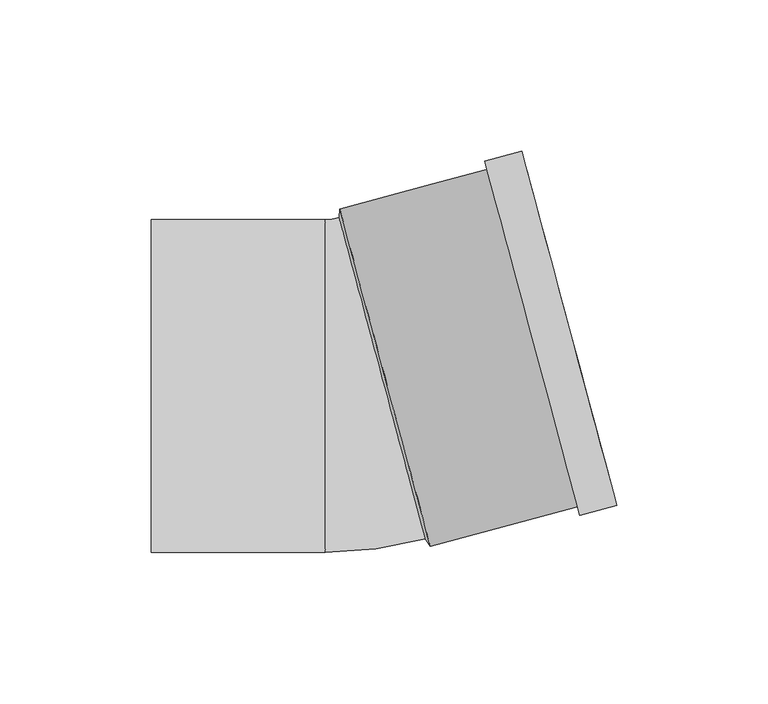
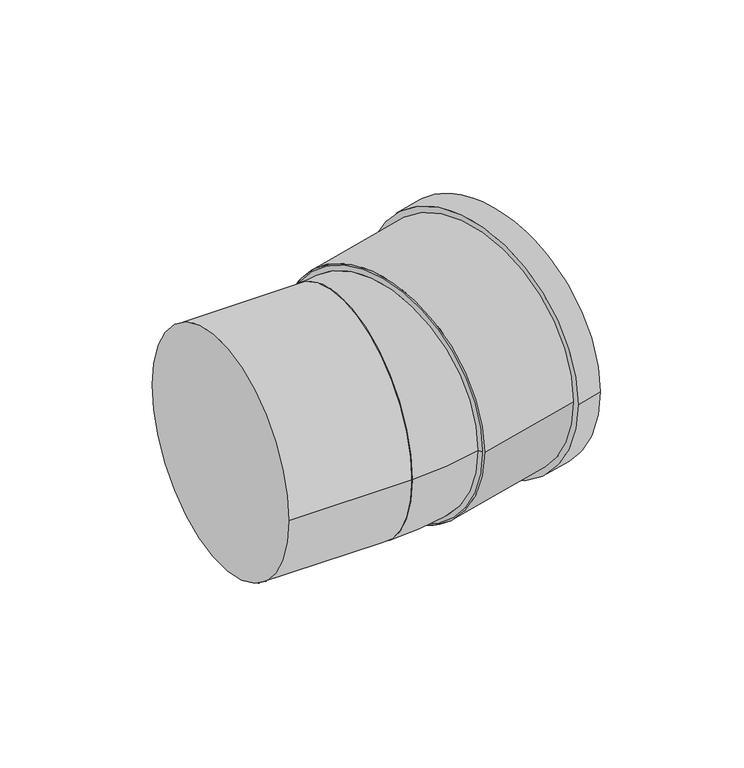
"""IFC4 building model written with IfcOpenShell, lengths in millimetres: pipe fitting geometry, Superdrain HT bend : Superdrain HT Bend."""

from ifc_helpers import new_model, si_unit, point, frame, origin, origin_2d, place, context, project, spatial, polyline, circle_curve, ellipse_curve, trimmed, segment, composite_curve, outline, extrude, source, transform, mapped, element, save
from ifc_brep_helpers import plane_surface, revolved_surface, advanced_brep


def pipe_fitting_7f627d22(model_context):
    return source(origin(), model_context, "Body", "SolidModel", [
        advanced_brep(
        [(23.5079354, -50.6412576, 0.0), (-4.9621595, 55.6105833, 0.0), (-9.6, -55.0, 0.0), (-9.6, 55.0, 0.0)],
        [
            (0, 1, circle_curve(frame((9.2728879, 2.4846628, 0.0), z_axis=(0.965925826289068, 0.258819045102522, 0.0), x_axis=(-0.258819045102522, 0.965925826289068, 0.0)), 55.0)),
            (1, 0, circle_curve(frame((9.2728879, 2.4846628, 0.0), z_axis=(0.9659258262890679, 0.25881904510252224, 0.0), x_axis=(-0.25881904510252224, 0.9659258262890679, 0.0)), 55.0)),
            (2, 3, circle_curve(frame((-9.6, 0.0, 0.0), z_axis=(-1.0, 0.0, 0.0), x_axis=(0.0, 1.0, 0.0)), 55.0)),
            (3, 2, circle_curve(frame((-9.6, 0.0, 0.0), z_axis=(-1.0, 0.0, 0.0), x_axis=(0.0, 1.0, 0.0)), 55.0)),
            (3, 1, circle_curve(frame((-9.6, 72.9192395, 0.0), z_axis=(0.0, 0.0, 1.0), x_axis=(1.0, 0.0, 0.0)), 17.9192395)),
            (0, 2, circle_curve(frame((-9.6, 72.9192395, 0.0), z_axis=(0.0, 0.0, -1.0), x_axis=(1.0, 0.0, 0.0)), 127.9192395)),
        ],
        [
            plane_surface(frame((9.2728879, 2.4846628, 0.0), z_axis=(0.965925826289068, 0.258819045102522, 0.0), x_axis=(0.0, 0.0, -1.0))),
            plane_surface(frame((-9.6, 0.0, 0.0), z_axis=(-1.0, 0.0, 0.0), x_axis=(0.0, 0.0, -1.0))),
            revolved_surface(trimmed(ellipse_curve(frame((63.3192395, 72.9192395, 0.0), z_axis=(0.0, -1.0, 0.0), x_axis=(-1.0, 0.0, 0.0)), 55.0, 55.0), [point((8.3192395, 72.9192395, 0.0))], [point((118.3192395, 72.9192395, 0.0))], True, "CARTESIAN"), (-9.6, 72.9192395, 0.0), (0.0, 0.0, 1.0)),
            revolved_surface(trimmed(ellipse_curve(frame((63.3192395, 72.9192395, 0.0), z_axis=(0.0, -1.0, 0.0), x_axis=(-1.0, 0.0, 0.0)), 55.0, 55.0), [point((118.3192395, 72.9192395, 0.0))], [point((8.3192395, 72.9192395, 0.0))], True, "CARTESIAN"), (-9.6, 72.9192395, 0.0), (0.0, 0.0, 1.0)),
        ],
        [
            (0, [[1, 2]]),
            (1, [[3, 4]]),
            (2, [[-4, 5, -1, 6]]),
            (3, [[-3, -6, -2, -5]]),
        ],
    ),
        extrude(outline(composite_curve([segment(trimmed(circle_curve(origin_2d(), 57.75), [point((0.0, 57.75))], [point((0.0, -57.7499999))], False, "CARTESIAN"), True, "CONTINUOUS"), segment(trimmed(circle_curve(origin_2d(), 57.75), [point((0.0, -57.7499999))], [point((0.0, 57.75))], False, "CARTESIAN"), True, "CONTINUOUS")], self_intersect=False), holes=[composite_curve([segment(trimmed(circle_curve(origin_2d(), 55.0), [point((0.0, 55.0))], [point((0.0, -55.0))], True, "CARTESIAN"), True, "CONTINUOUS"), segment(trimmed(circle_curve(origin_2d(), 55.0), [point((0.0, -55.0))], [point((0.0, 55.0))], True, "CARTESIAN"), True, "CONTINUOUS")], self_intersect=False)]), frame((10.2388138, 2.7434819, 0.0), z_axis=(0.9659258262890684, 0.2588190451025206, 0.0), x_axis=(0.0, 0.0, 1.0)), (0.0, 0.0, 1.0), 63.0),
        extrude(outline(composite_curve([segment(trimmed(circle_curve(origin_2d(), 60.6375), [point((0.0, -60.6374999))], [point((0.0, 60.6375))], False, "CARTESIAN"), True, "CONTINUOUS"), segment(trimmed(circle_curve(origin_2d(), 60.6375), [point((0.0, 60.6375))], [point((0.0, -60.6374999))], False, "CARTESIAN"), True, "CONTINUOUS")], self_intersect=False), holes=[composite_curve([segment(trimmed(circle_curve(origin_2d(), 55.0), [point((0.0, -55.0))], [point((0.0, 55.0000001))], True, "CARTESIAN"), True, "CONTINUOUS"), segment(trimmed(circle_curve(origin_2d(), 55.0), [point((0.0, 55.0000001))], [point((0.0, -55.0))], True, "CARTESIAN"), True, "CONTINUOUS")], self_intersect=False)]), frame((58.9214754, 15.7879618, 0.0), z_axis=(0.9659258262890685, 0.25881904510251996, 0.0), x_axis=(0.0, 0.0, 1.0)), (0.0, 0.0, 1.0), 12.6),
        advanced_brep(
        [(25.1856136, -53.0387346, 0.0), (-4.7079861, 58.5256983, 0.0), (23.5079354, -50.6412576, 0.0), (-4.9621595, 55.6105833, 0.0)],
        [
            (0, 1, circle_curve(frame((10.2388138, 2.7434819, 0.0), z_axis=(0.9659258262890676, 0.25881904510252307, 0.0), x_axis=(0.25881904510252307, -0.9659258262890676, 0.0)), 57.75)),
            (1, 0, circle_curve(frame((10.2388138, 2.7434819, 0.0), z_axis=(0.9659258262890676, 0.25881904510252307, 0.0), x_axis=(-0.25881904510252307, 0.9659258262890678, 0.0)), 57.75)),
            (2, 3, circle_curve(frame((9.2728879, 2.4846628, 0.0), z_axis=(-0.9659258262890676, -0.25881904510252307, 0.0), x_axis=(-0.25881904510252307, 0.9659258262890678, 0.0)), 55.0)),
            (3, 2, circle_curve(frame((9.2728879, 2.4846628, 0.0), z_axis=(-0.9659258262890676, -0.25881904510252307, 0.0), x_axis=(0.25881904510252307, -0.9659258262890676, 0.0)), 55.0)),
            (3, 1),
            (0, 2),
        ],
        [
            plane_surface(frame((10.2388138, 2.7434819, 0.0), z_axis=(0.9659258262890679, 0.25881904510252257, 0.0), x_axis=(0.0, 0.0, -1.0))),
            plane_surface(frame((9.2728879, 2.4846628, 0.0), z_axis=(-0.9659258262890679, -0.25881904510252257, 0.0), x_axis=(0.0, 0.0, -1.0))),
            revolved_surface(polyline([(-4.962159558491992, 55.61058316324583, 0.0), (-4.7079860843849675, 58.525698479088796, 0.0)]), (-10.0456286, -2.6917181, 0.0), (0.9659258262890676, 0.25881904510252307, 0.0)),
            revolved_surface(polyline([(23.507935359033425, -50.641257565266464, 0.0), (25.185613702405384, -53.03873474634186, 0.0)]), (-10.0456286, -2.6917181, 0.0), (0.9659258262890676, 0.25881904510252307, 0.0)),
        ],
        [
            (0, [[1, 2]]),
            (1, [[3, 4]]),
            (2, [[-4, 5, -1, 6]]),
            (3, [[-3, -6, -2, -5]]),
        ],
    ),
        extrude(outline(composite_curve([segment(trimmed(circle_curve(origin_2d(), 55.0), [point((-55.0, 0.0))], [point((55.0, 0.0))], False, "CARTESIAN"), True, "CONTINUOUS"), segment(trimmed(circle_curve(origin_2d(), 55.0), [point((55.0, 0.0))], [point((-55.0, 0.0))], False, "CARTESIAN"), True, "CONTINUOUS")], self_intersect=False)), frame((-67.0, 0.0, 0.0), z_axis=(1.0, 0.0, 0.0), x_axis=(0.0, 1.0, 0.0)), (0.0, 0.0, 1.0), 57.4),
    ])


if __name__ == "__main__":
    model = new_model("IFC4")
    model_context = context("Model", 3, world=origin())
    ifc_project = project(units=[si_unit("LENGTHUNIT", "METRE", prefix="MILLI")], contexts=[model_context])
    site = spatial("IfcSite", under=ifc_project)
    building = spatial("IfcBuilding", under=site)
    placement = place(None, origin())
    pipe_fitting_shape = pipe_fitting_7f627d22(model_context)
    element("IfcPipeFitting", 1, ObjectType="Superdrain HT bend : Superdrain HT Bend", at=placement, inside=building, context=model_context, shape_type="MappedRepresentation", body=[
        mapped(pipe_fitting_shape, transform((0.0, 0.0, 0.0), x_axis=(1.0, 0.0, 0.0), y_axis=(0.0, 1.0, 0.0), z_axis=(0.0, 0.0, 1.0))),
    ])
    save(model, "model.ifc")
